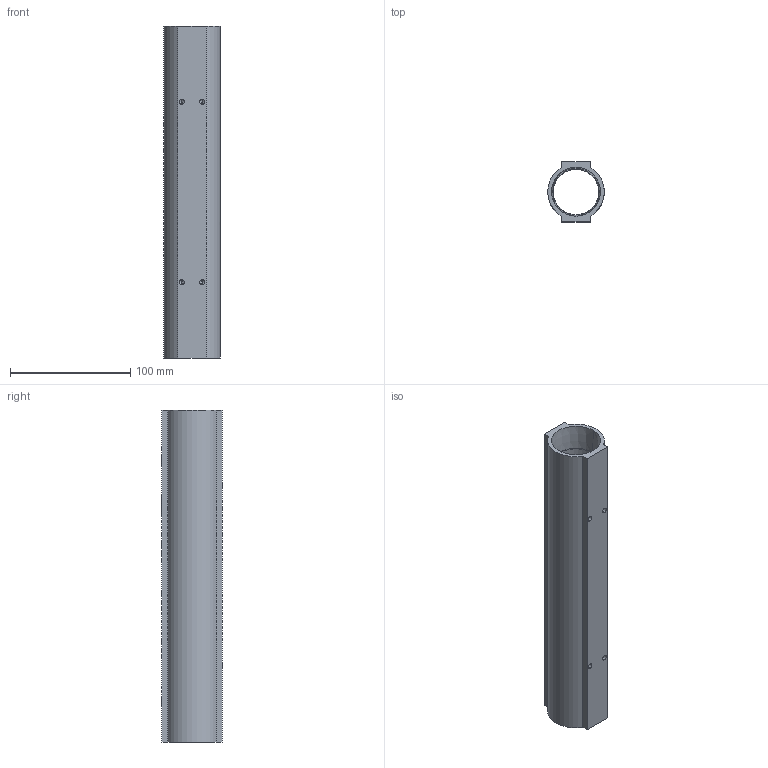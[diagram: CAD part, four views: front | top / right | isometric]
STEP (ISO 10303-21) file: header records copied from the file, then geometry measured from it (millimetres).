
FILE_DESCRIPTION (( 'STEP AP214' ), '1' );
FILE_NAME ('BWM6620B.STEP', '2022-03-15T05:39:26', ( '' ), ( '' ), 'SwSTEP 2.0', 'SolidWorks 2020', '' );
FILE_SCHEMA (( 'AUTOMOTIVE_DESIGN' ));
Length unit declared in the file: millimetre
Products named in the file (1): BWM6620B
Bounding box: 47 x 50 x 276 mm (x, y, z)
Volume: 186435 mm3; surface area: 79880.8 mm2
Topology: 1 solids, 1 shells, 216 faces, 577 edges, 378 vertices
Faces by surface type: plane 93, bspline 57, cylinder 42, cone 24
Entity records: 12244 total; most frequent: CARTESIAN_POINT 5477, ORIENTED_EDGE 1138, DIRECTION 721, EDGE_CURVE 569, VERTEX_POINT 378, VECTOR 277, LINE 277, EDGE_LOOP 253
